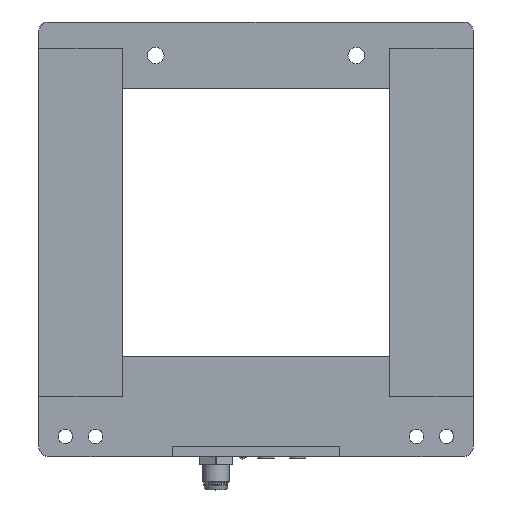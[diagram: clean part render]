
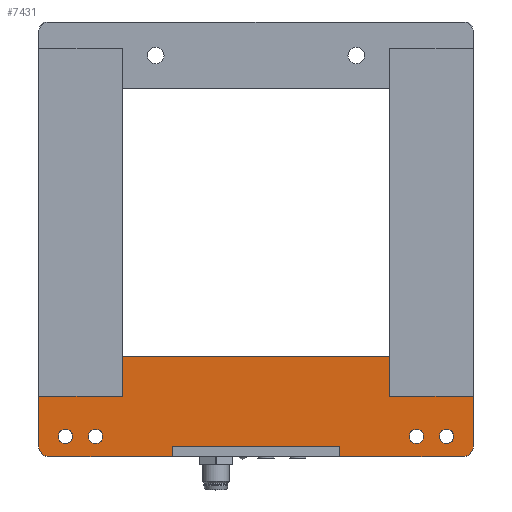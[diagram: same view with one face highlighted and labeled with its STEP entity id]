
A CAD part, top view. The second image highlights one B-rep face of the part: STEP entity #7431.
In plain terms, the highlighted planar face has unit normal (0, 0, 1).
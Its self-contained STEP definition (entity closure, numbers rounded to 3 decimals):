
#482=LINE($,#11373,#1084);
#489=LINE($,#11389,#1091);
#492=LINE($,#11396,#1094);
#495=LINE($,#11402,#1097);
#502=LINE($,#11428,#1104);
#503=LINE($,#11432,#1105);
#504=LINE($,#11434,#1106);
#505=LINE($,#11436,#1107);
#506=LINE($,#11438,#1108);
#507=LINE($,#11440,#1109);
#508=LINE($,#11441,#1110);
#509=LINE($,#11443,#1111);
#1084=VECTOR($,#9167,37.);
#1091=VECTOR($,#9178,15.);
#1094=VECTOR($,#9183,3.);
#1097=VECTOR($,#9188,50.);
#1104=VECTOR($,#9209,37.);
#1105=VECTOR($,#9212,15.);
#1106=VECTOR($,#9213,25.);
#1107=VECTOR($,#9214,12.);
#1108=VECTOR($,#9215,80.);
#1109=VECTOR($,#9216,12.);
#1110=VECTOR($,#9217,25.);
#1111=VECTOR($,#9220,3.);
#1623=PLANE($,#8016);
#1871=FACE_BOUND($,#2681,.T.);
#1872=FACE_BOUND($,#2682,.T.);
#1873=FACE_BOUND($,#2683,.T.);
#1874=FACE_BOUND($,#2684,.T.);
#2151=FACE_OUTER_BOUND($,#2680,.T.);
#2680=EDGE_LOOP($,(#5664,#5665,#5666,#5667,#5668,#5669,#5670,#5671,#5672,
#5673,#5674,#5675,#5676,#5677));
#2681=EDGE_LOOP($,(#5678));
#2682=EDGE_LOOP($,(#5679));
#2683=EDGE_LOOP($,(#5680));
#2684=EDGE_LOOP($,(#5681));
#3254=CIRCLE($,#8017,3.);
#3255=CIRCLE($,#8018,3.);
#3256=CIRCLE($,#8019,2.15);
#3257=CIRCLE($,#8020,2.15);
#3258=CIRCLE($,#8021,2.15);
#3259=CIRCLE($,#8022,2.15);
#3684=VERTEX_POINT($,#11371);
#3685=VERTEX_POINT($,#11372);
#3691=VERTEX_POINT($,#11386);
#3692=VERTEX_POINT($,#11388);
#3694=VERTEX_POINT($,#11393);
#3695=VERTEX_POINT($,#11395);
#3697=VERTEX_POINT($,#11401);
#3709=VERTEX_POINT($,#11427);
#3710=VERTEX_POINT($,#11429);
#3711=VERTEX_POINT($,#11431);
#3712=VERTEX_POINT($,#11433);
#3713=VERTEX_POINT($,#11435);
#3714=VERTEX_POINT($,#11437);
#3715=VERTEX_POINT($,#11439);
#3716=VERTEX_POINT($,#11444);
#3717=VERTEX_POINT($,#11446);
#3718=VERTEX_POINT($,#11448);
#3719=VERTEX_POINT($,#11450);
#4441=EDGE_CURVE($,#3684,#3685,#482,.T.);
#4449=EDGE_CURVE($,#3692,#3691,#489,.T.);
#4452=EDGE_CURVE($,#3694,#3695,#492,.T.);
#4455=EDGE_CURVE($,#3695,#3697,#495,.T.);
#4468=EDGE_CURVE($,#3694,#3709,#502,.T.);
#4469=EDGE_CURVE($,#3709,#3710,#3254,.T.);
#4470=EDGE_CURVE($,#3710,#3711,#503,.T.);
#4471=EDGE_CURVE($,#3712,#3711,#504,.T.);
#4472=EDGE_CURVE($,#3713,#3712,#505,.T.);
#4473=EDGE_CURVE($,#3713,#3714,#506,.T.);
#4474=EDGE_CURVE($,#3715,#3714,#507,.T.);
#4475=EDGE_CURVE($,#3692,#3715,#508,.T.);
#4476=EDGE_CURVE($,#3691,#3684,#3255,.T.);
#4477=EDGE_CURVE($,#3697,#3685,#509,.T.);
#4478=EDGE_CURVE($,#3716,#3716,#3256,.T.);
#4479=EDGE_CURVE($,#3717,#3717,#3257,.T.);
#4480=EDGE_CURVE($,#3718,#3718,#3258,.T.);
#4481=EDGE_CURVE($,#3719,#3719,#3259,.T.);
#5664=ORIENTED_EDGE($,*,*,#4468,.T.);
#5665=ORIENTED_EDGE($,*,*,#4469,.T.);
#5666=ORIENTED_EDGE($,*,*,#4470,.T.);
#5667=ORIENTED_EDGE($,*,*,#4471,.F.);
#5668=ORIENTED_EDGE($,*,*,#4472,.F.);
#5669=ORIENTED_EDGE($,*,*,#4473,.T.);
#5670=ORIENTED_EDGE($,*,*,#4474,.F.);
#5671=ORIENTED_EDGE($,*,*,#4475,.F.);
#5672=ORIENTED_EDGE($,*,*,#4449,.T.);
#5673=ORIENTED_EDGE($,*,*,#4476,.T.);
#5674=ORIENTED_EDGE($,*,*,#4441,.T.);
#5675=ORIENTED_EDGE($,*,*,#4477,.F.);
#5676=ORIENTED_EDGE($,*,*,#4455,.F.);
#5677=ORIENTED_EDGE($,*,*,#4452,.F.);
#5678=ORIENTED_EDGE($,*,*,#4478,.T.);
#5679=ORIENTED_EDGE($,*,*,#4479,.T.);
#5680=ORIENTED_EDGE($,*,*,#4480,.T.);
#5681=ORIENTED_EDGE($,*,*,#4481,.T.);
#7431=ADVANCED_FACE($,(#2151,#1871,#1872,#1873,#1874),#1623,.T.);
#8016=AXIS2_PLACEMENT_3D($,#11426,#9207,#9208);
#8017=AXIS2_PLACEMENT_3D($,#11430,#9210,#9211);
#8018=AXIS2_PLACEMENT_3D($,#11442,#9218,#9219);
#8019=AXIS2_PLACEMENT_3D($,#11445,#9221,#9222);
#8020=AXIS2_PLACEMENT_3D($,#11447,#9223,#9224);
#8021=AXIS2_PLACEMENT_3D($,#11449,#9225,#9226);
#8022=AXIS2_PLACEMENT_3D($,#11451,#9227,#9228);
#9167=DIRECTION($,(1.,0.,0.));
#9178=DIRECTION($,(0.,-1.,0.));
#9183=DIRECTION($,(0.,1.,0.));
#9188=DIRECTION($,(-1.,0.,0.));
#9207=DIRECTION('center_axis',(0.,0.,1.));
#9208=DIRECTION('ref_axis',(1.,0.,0.));
#9209=DIRECTION($,(1.,0.,0.));
#9210=DIRECTION('center_axis',(0.,0.,1.));
#9211=DIRECTION('ref_axis',(1.,0.,0.));
#9212=DIRECTION($,(0.,1.,0.));
#9213=DIRECTION($,(1.,0.,0.));
#9214=DIRECTION($,(0.,-1.,0.));
#9215=DIRECTION($,(-1.,0.,0.));
#9216=DIRECTION($,(0.,1.,0.));
#9217=DIRECTION($,(1.,0.,0.));
#9218=DIRECTION('center_axis',(0.,0.,1.));
#9219=DIRECTION('ref_axis',(1.,0.,0.));
#9220=DIRECTION($,(0.,-1.,0.));
#9221=DIRECTION('center_axis',(0.,0.,-1.));
#9222=DIRECTION('ref_axis',(0.,-1.,0.));
#9223=DIRECTION('center_axis',(0.,0.,-1.));
#9224=DIRECTION('ref_axis',(0.,-1.,0.));
#9225=DIRECTION('center_axis',(0.,0.,-1.));
#9226=DIRECTION('ref_axis',(0.,-1.,0.));
#9227=DIRECTION('center_axis',(0.,0.,-1.));
#9228=DIRECTION('ref_axis',(0.,-1.,0.));
#11371=CARTESIAN_POINT('',(3.,-30.,0.));
#11372=CARTESIAN_POINT('',(40.,-30.,0.));
#11373=CARTESIAN_POINT($,(0.,-30.,0.));
#11386=CARTESIAN_POINT('',(0.,-27.,0.));
#11388=CARTESIAN_POINT('',(0.,-12.,0.));
#11389=CARTESIAN_POINT($,(0.,0.,
0.));
#11393=CARTESIAN_POINT('',(90.,-30.,0.));
#11395=CARTESIAN_POINT('',(90.,-27.,0.));
#11396=CARTESIAN_POINT($,(90.,-30.,0.));
#11401=CARTESIAN_POINT('',(40.,-27.,0.));
#11402=CARTESIAN_POINT($,(90.,-27.,0.));
#11426=CARTESIAN_POINT('Origin',(0.,-30.,0.));
#11427=CARTESIAN_POINT('',(127.,-30.,0.));
#11428=CARTESIAN_POINT($,(0.,-30.,0.));
#11429=CARTESIAN_POINT('',(130.,-27.,0.));
#11430=CARTESIAN_POINT('Origin',(127.,-27.,0.));
#11431=CARTESIAN_POINT('',(130.,-12.,0.));
#11432=CARTESIAN_POINT($,(130.,-30.,0.));
#11433=CARTESIAN_POINT('',(105.,-12.,0.));
#11434=CARTESIAN_POINT($,(105.,-12.,0.));
#11435=CARTESIAN_POINT('',(105.,0.,0.));
#11436=CARTESIAN_POINT($,(105.,-30.,0.));
#11437=CARTESIAN_POINT('',(25.,0.,0.));
#11438=CARTESIAN_POINT($,(130.,0.,0.));
#11439=CARTESIAN_POINT('',(25.,-12.,0.));
#11440=CARTESIAN_POINT($,(25.,-12.,0.));
#11441=CARTESIAN_POINT($,(-6.84,-12.,0.));
#11442=CARTESIAN_POINT('Origin',(3.,-27.,0.));
#11443=CARTESIAN_POINT($,(40.,-27.,0.));
#11444=CARTESIAN_POINT('',(8.,-26.15,0.));
#11445=CARTESIAN_POINT('Origin',(8.,-24.,0.));
#11446=CARTESIAN_POINT('',(113.,-26.15,0.));
#11447=CARTESIAN_POINT('Origin',(113.,-24.,0.));
#11448=CARTESIAN_POINT('',(122.,-26.15,0.));
#11449=CARTESIAN_POINT('Origin',(122.,-24.,0.));
#11450=CARTESIAN_POINT('',(17.,-26.15,0.));
#11451=CARTESIAN_POINT('Origin',(17.,-24.,0.));
